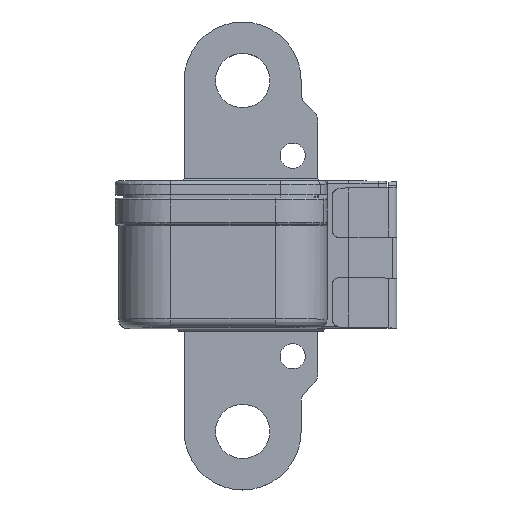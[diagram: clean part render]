
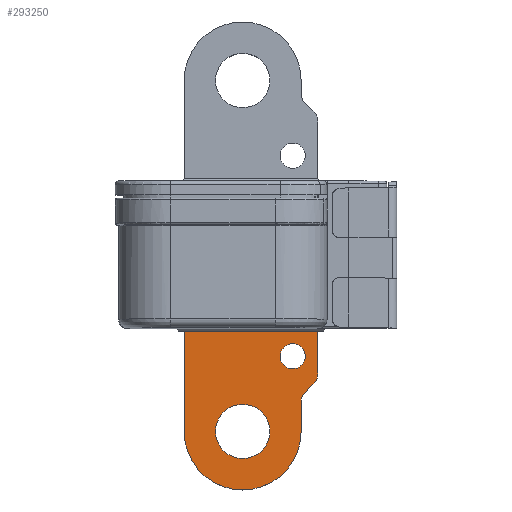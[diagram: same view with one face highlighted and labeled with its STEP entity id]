
A CAD part, top view. The second image highlights one B-rep face of the part: STEP entity #293250.
In plain terms, the highlighted planar face has unit normal (0, 0, 1) as drawn and (0, 0, -1) by its records, which use the part's own axes.
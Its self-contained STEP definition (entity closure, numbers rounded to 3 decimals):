
#291710=CARTESIAN_POINT('',(-8.6,-21.095,
-9.025));
#291720=VERTEX_POINT('',#291710);
#291890=CARTESIAN_POINT('',(-8.6,-5.095,
-9.025));
#291900=VERTEX_POINT('',#291890);
#292200=CARTESIAN_POINT('',(-8.6,-21.095,
-9.025));
#292210=DIRECTION('',(0.,1.,0.));
#292220=VECTOR('',#292210,1.);
#292230=LINE('',#292200,#292220);
#292240=EDGE_CURVE('',#291720,#291900,#292230,.T.);
#292300=CARTESIAN_POINT('',(47.935,-74.095,
-9.025));
#292310=DIRECTION('',(0.,0.,-1.));
#292320=DIRECTION('',(-1.,0.,0.));
#292330=AXIS2_PLACEMENT_3D('',#292300,#292310,#292320);
#292340=PLANE('',#292330);
#292350=CARTESIAN_POINT('',(-13.6,-7.095,
-9.025));
#292360=DIRECTION('',(0.,0.,-1.));
#292370=DIRECTION('',(-0.707,0.707,
0.));
#292380=AXIS2_PLACEMENT_3D('',#292350,#292360,#292370);
#292390=CIRCLE('',#292380,2.);
#292400=CARTESIAN_POINT('',(-15.014,-5.681,
-9.025));
#292410=VERTEX_POINT('',#292400);
#292420=CARTESIAN_POINT('',(-13.6,-5.095,
-9.025));
#292430=VERTEX_POINT('',#292420);
#292440=EDGE_CURVE('',#292410,#292430,#292390,.T.);
#292450=ORIENTED_EDGE('',*,*,#292440,.T.);
#292460=CARTESIAN_POINT('',(-16.136,-6.802,
-9.025));
#292470=DIRECTION('',(0.707,0.707,0.));
#292480=VECTOR('',#292470,1.);
#292490=LINE('',#292460,#292480);
#292500=CARTESIAN_POINT('',(-16.136,-6.802,
-9.025));
#292510=VERTEX_POINT('',#292500);
#292520=EDGE_CURVE('',#292510,#292410,#292490,.T.);
#292530=ORIENTED_EDGE('',*,*,#292520,.T.);
#292540=CARTESIAN_POINT('',(-16.843,-6.095,
-9.025));
#292550=DIRECTION('',(0.,0.,1.));
#292560=DIRECTION('',(0.,-1.,0.));
#292570=AXIS2_PLACEMENT_3D('',#292540,#292550,#292560);
#292580=CIRCLE('',#292570,1.);
#292590=CARTESIAN_POINT('',(-16.843,-7.095,
-9.025));
#292600=VERTEX_POINT('',#292590);
#292610=EDGE_CURVE('',#292600,#292510,#292580,.T.);
#292620=ORIENTED_EDGE('',*,*,#292610,.T.);
#292630=CARTESIAN_POINT('',(-16.843,-7.095,
-9.025));
#292640=DIRECTION('',(-1.,0.,0.));
#292650=VECTOR('',#292640,1.);
#292660=LINE('',#292630,#292650);
#292670=CARTESIAN_POINT('',(-20.6,-7.095,
-9.025));
#292680=VERTEX_POINT('',#292670);
#292690=EDGE_CURVE('',#292600,#292680,#292660,.T.);
#292700=ORIENTED_EDGE('',*,*,#292690,.F.);
#292710=CARTESIAN_POINT('',(-20.6,-14.095,
-9.025));
#292720=DIRECTION('',(0.,0.,-1.));
#292730=DIRECTION('',(0.,-1.,0.));
#292740=AXIS2_PLACEMENT_3D('',#292710,#292720,#292730);
#292750=CIRCLE('',#292740,7.);
#292760=CARTESIAN_POINT('',(-20.6,-21.095,
-9.025));
#292770=VERTEX_POINT('',#292760);
#292780=EDGE_CURVE('',#292770,#292680,#292750,.T.);
#292790=ORIENTED_EDGE('',*,*,#292780,.T.);
#292800=CARTESIAN_POINT('',(-20.6,-21.095,
-9.025));
#292810=DIRECTION('',(1.,0.,0.));
#292820=VECTOR('',#292810,1.);
#292830=LINE('',#292800,#292820);
#292840=EDGE_CURVE('',#292770,#291720,#292830,.T.);
#292850=ORIENTED_EDGE('',*,*,#292840,.F.);
#292860=ORIENTED_EDGE('',*,*,#292240,.F.);
#292870=CARTESIAN_POINT('',(-13.6,-5.095,
-9.025));
#292880=DIRECTION('',(1.,0.,0.));
#292890=VECTOR('',#292880,1.);
#292900=LINE('',#292870,#292890);
#292910=EDGE_CURVE('',#292430,#291900,#292900,.T.);
#292920=ORIENTED_EDGE('',*,*,#292910,.T.);
#292930=EDGE_LOOP('',(#292920,#292860,#292850,#292790,#292700,#292620,
#292530,#292450));
#292940=FACE_OUTER_BOUND('',#292930,.T.);
#292950=CARTESIAN_POINT('',(-20.6,-14.095,
-9.025));
#292960=DIRECTION('',(0.,0.,1.));
#292970=DIRECTION('',(-1.,0.,0.));
#292980=AXIS2_PLACEMENT_3D('',#292950,#292960,#292970);
#292990=CIRCLE('',#292980,3.25);
#293000=CARTESIAN_POINT('',(-17.35,-14.095,
-9.025));
#293010=VERTEX_POINT('',#293000);
#293020=CARTESIAN_POINT('',(-23.85,-14.095,
-9.025));
#293030=VERTEX_POINT('',#293020);
#293040=EDGE_CURVE('',#293010,#293030,#292990,.T.);
#293050=ORIENTED_EDGE('',*,*,#293040,.T.);
#293060=EDGE_CURVE('',#293030,#293010,#292990,.T.);
#293070=ORIENTED_EDGE('',*,*,#293060,.T.);
#293080=EDGE_LOOP('',(#293070,#293050));
#293090=FACE_BOUND('',#293080,.T.);
#293100=CARTESIAN_POINT('',(-11.6,-8.095,
-9.025));
#293110=DIRECTION('',(0.,0.,1.));
#293120=DIRECTION('',(-1.,0.,0.));
#293130=AXIS2_PLACEMENT_3D('',#293100,#293110,#293120);
#293140=CIRCLE('',#293130,1.5);
#293150=CARTESIAN_POINT('',(-13.1,-8.095,
-9.025));
#293160=VERTEX_POINT('',#293150);
#293170=CARTESIAN_POINT('',(-10.1,-8.095,
-9.025));
#293180=VERTEX_POINT('',#293170);
#293190=EDGE_CURVE('',#293160,#293180,#293140,.T.);
#293200=ORIENTED_EDGE('',*,*,#293190,.T.);
#293210=EDGE_CURVE('',#293180,#293160,#293140,.T.);
#293220=ORIENTED_EDGE('',*,*,#293210,.T.);
#293230=EDGE_LOOP('',(#293220,#293200));
#293240=FACE_BOUND('',#293230,.T.);
#293250=ADVANCED_FACE('',(#292940,#293090,#293240),#292340,.T.);
